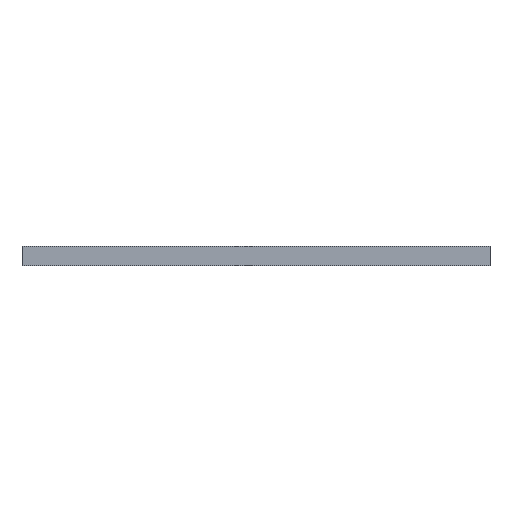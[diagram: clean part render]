
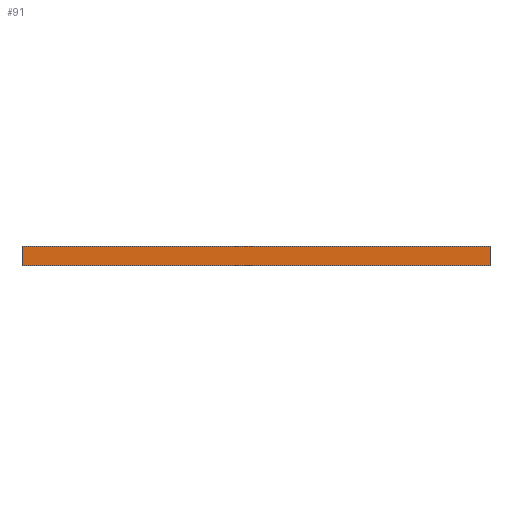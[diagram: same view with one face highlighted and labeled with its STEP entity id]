
A CAD part, front view. The second image highlights one B-rep face of the part: STEP entity #91.
In plain terms, the highlighted planar face has unit normal (0, -1, 0).
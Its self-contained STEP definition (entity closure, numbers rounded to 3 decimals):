
#66 = VERTEX_POINT('',#67);
#67 = CARTESIAN_POINT('',(0.876,-9.766,1.6)
  );
#73 = EDGE_CURVE('',#74,#66,#76,.T.);
#74 = VERTEX_POINT('',#75);
#75 = CARTESIAN_POINT('',(0.876,-9.766,0.));
#76 = LINE('',#77,#78);
#77 = CARTESIAN_POINT('',(0.876,-9.766,0.));
#78 = VECTOR('',#79,1.);
#79 = DIRECTION('',(0.,0.,1.));
#91 = ADVANCED_FACE('',(#92),#117,.T.);
#92 = FACE_BOUND('',#93,.T.);
#93 = EDGE_LOOP('',(#94,#95,#103,#111));
#94 = ORIENTED_EDGE('',*,*,#73,.T.);
#95 = ORIENTED_EDGE('',*,*,#96,.T.);
#96 = EDGE_CURVE('',#66,#97,#99,.T.);
#97 = VERTEX_POINT('',#98);
#98 = CARTESIAN_POINT('',(-37.833,-9.766,1.6
    ));
#99 = LINE('',#100,#101);
#100 = CARTESIAN_POINT('',(0.876,-9.766,1.6
    ));
#101 = VECTOR('',#102,1.);
#102 = DIRECTION('',(-1.,0.,0.));
#103 = ORIENTED_EDGE('',*,*,#104,.F.);
#104 = EDGE_CURVE('',#105,#97,#107,.T.);
#105 = VERTEX_POINT('',#106);
#106 = CARTESIAN_POINT('',(-37.833,-9.766,0.));
#107 = LINE('',#108,#109);
#108 = CARTESIAN_POINT('',(-37.833,-9.766,0.));
#109 = VECTOR('',#110,1.);
#110 = DIRECTION('',(0.,0.,1.));
#111 = ORIENTED_EDGE('',*,*,#112,.F.);
#112 = EDGE_CURVE('',#74,#105,#113,.T.);
#113 = LINE('',#114,#115);
#114 = CARTESIAN_POINT('',(0.876,-9.766,0.));
#115 = VECTOR('',#116,1.);
#116 = DIRECTION('',(-1.,0.,0.));
#117 = PLANE('',#118);
#118 = AXIS2_PLACEMENT_3D('',#119,#120,#121);
#119 = CARTESIAN_POINT('',(0.876,-9.766,0.));
#120 = DIRECTION('',(0.,-1.,0.));
#121 = DIRECTION('',(-1.,0.,0.));
